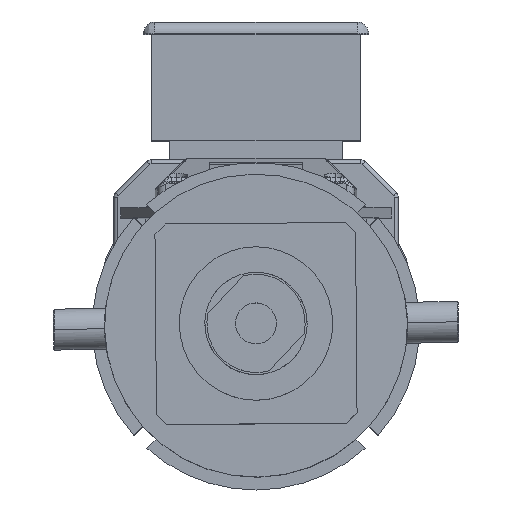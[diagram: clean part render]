
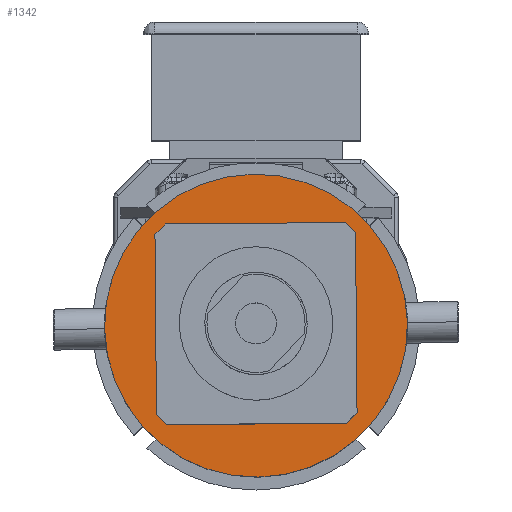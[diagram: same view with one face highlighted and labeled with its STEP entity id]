
A CAD part, top view. The second image highlights one B-rep face of the part: STEP entity #1342.
In plain terms, the highlighted planar face has unit normal (0, 0, 1) as drawn and (0, 0, -1) by its records, which use the part's own axes.
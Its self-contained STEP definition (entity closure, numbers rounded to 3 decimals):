
#460 = CARTESIAN_POINT ( 'NONE',  ( 40., 0., 0. ) ) ;
#643 = DIRECTION ( 'NONE',  ( 0., 0., 1. ) ) ;
#1342 = ADVANCED_FACE ( 'NONE', ( #74041, #22334 ), #49971, .F. ) ;
#1709 = VERTEX_POINT ( 'NONE', #460 ) ;
#3727 = EDGE_LOOP ( 'NONE', ( #57490, #38975 ) ) ;
#3879 = DIRECTION ( 'NONE',  ( 0., 0., -1. ) ) ;
#5727 = AXIS2_PLACEMENT_3D ( 'NONE', #39577, #643, #46145 ) ;
#7321 = CARTESIAN_POINT ( 'NONE',  ( 74., 0., 0. ) ) ;
#8805 = DIRECTION ( 'NONE',  ( 0., 0., 1. ) ) ;
#11227 = AXIS2_PLACEMENT_3D ( 'NONE', #29937, #75269, #36484 ) ;
#11300 = DIRECTION ( 'NONE',  ( 0., 0., 1. ) ) ;
#13003 = VERTEX_POINT ( 'NONE', #41427 ) ;
#21603 = CIRCLE ( 'NONE', #5727, 74. ) ;
#22334 = FACE_BOUND ( 'NONE', #3727, .T. ) ;
#29937 = CARTESIAN_POINT ( 'NONE',  ( 0., 0., 0. ) ) ;
#32164 = ORIENTED_EDGE ( 'NONE', *, *, #71539, .F. ) ;
#36484 = DIRECTION ( 'NONE',  ( 1., 0., 0. ) ) ;
#38975 = ORIENTED_EDGE ( 'NONE', *, *, #55317, .F. ) ;
#39577 = CARTESIAN_POINT ( 'NONE',  ( 0., 0., 0. ) ) ;
#41306 = AXIS2_PLACEMENT_3D ( 'NONE', #47743, #8805, #54275 ) ;
#41427 = CARTESIAN_POINT ( 'NONE',  ( -74., 0., 0. ) ) ;
#42811 = CARTESIAN_POINT ( 'NONE',  ( 0., 0., 0. ) ) ;
#46145 = DIRECTION ( 'NONE',  ( 1., 0., 0. ) ) ;
#47743 = CARTESIAN_POINT ( 'NONE',  ( 0., 0., 0. ) ) ;
#49386 = DIRECTION ( 'NONE',  ( 1., 0., 0. ) ) ;
#49971 = PLANE ( 'NONE',  #80300 ) ;
#50266 = CARTESIAN_POINT ( 'NONE',  ( 0., 0., 0. ) ) ;
#51194 = CIRCLE ( 'NONE', #11227, 40. ) ;
#52710 = CIRCLE ( 'NONE', #80768, 40. ) ;
#53741 = VERTEX_POINT ( 'NONE', #54241 ) ;
#54241 = CARTESIAN_POINT ( 'NONE',  ( -40., 0., 0. ) ) ;
#54275 = DIRECTION ( 'NONE',  ( 1., 0., 0. ) ) ;
#55317 = EDGE_CURVE ( 'NONE', #53741, #1709, #51194, .T. ) ;
#55582 = CIRCLE ( 'NONE', #41306, 74. ) ;
#56793 = DIRECTION ( 'NONE',  ( 1., 0., 0. ) ) ;
#57490 = ORIENTED_EDGE ( 'NONE', *, *, #83926, .F. ) ;
#66821 = EDGE_LOOP ( 'NONE', ( #75582, #32164 ) ) ;
#69289 = EDGE_CURVE ( 'NONE', #13003, #78596, #21603, .T. ) ;
#71539 = EDGE_CURVE ( 'NONE', #78596, #13003, #55582, .T. ) ;
#74041 = FACE_OUTER_BOUND ( 'NONE', #66821, .T. ) ;
#75269 = DIRECTION ( 'NONE',  ( 0., 0., -1. ) ) ;
#75582 = ORIENTED_EDGE ( 'NONE', *, *, #69289, .F. ) ;
#78596 = VERTEX_POINT ( 'NONE', #7321 ) ;
#80300 = AXIS2_PLACEMENT_3D ( 'NONE', #50266, #11300, #56793 ) ;
#80768 = AXIS2_PLACEMENT_3D ( 'NONE', #42811, #3879, #49386 ) ;
#83926 = EDGE_CURVE ( 'NONE', #1709, #53741, #52710, .T. ) ;
